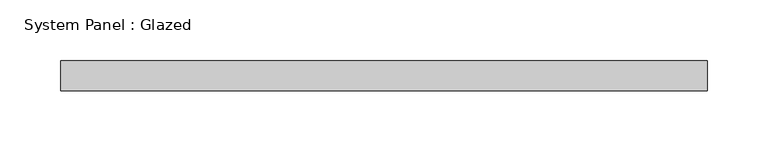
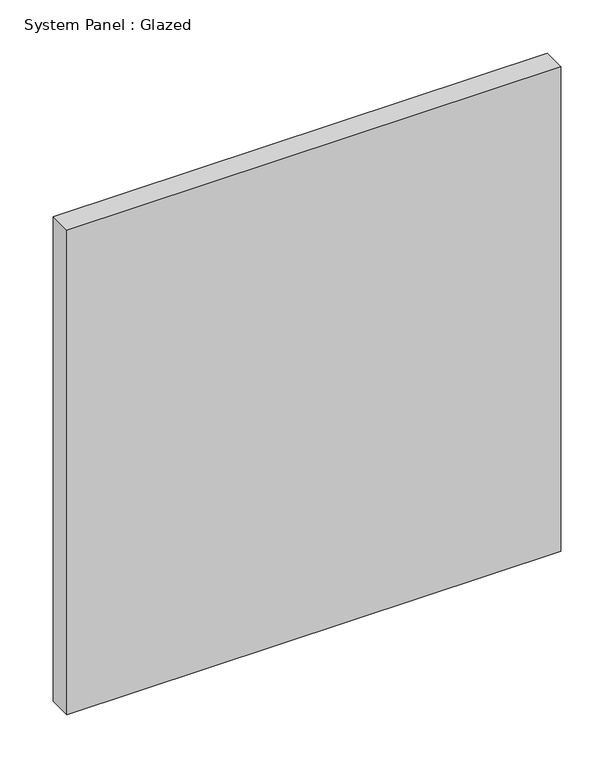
"""IFC4 building model written with IfcOpenShell, lengths in millimetres: plate geometry, System Panel : Glazed."""

from ifc_helpers import new_model, si_unit, origin, origin_with_axes, place, context, project, spatial, polyline, outline, extrude, source, transform, mapped, element, save


def system_panel_glazed_48e7aa56(model_context):
    return source(origin(), model_context, "Body", "SweptSolid", [
        extrude(outline(polyline([(266.7200031, -12.5), (-266.7200031, -12.5), (-266.7200031, 12.5), (266.7200031, 12.5), (266.7200031, -12.5)])), origin_with_axes(), (0.0, 0.0, 1.0), 553.2555545),
    ])


if __name__ == "__main__":
    model = new_model("IFC4")
    model_context = context("Model", 3, world=origin())
    ifc_project = project(units=[si_unit("LENGTHUNIT", "METRE", prefix="MILLI")], contexts=[model_context])
    site = spatial("IfcSite", under=ifc_project)
    building = spatial("IfcBuilding", under=site)
    placement = place(None, origin())
    system_panel_glazed_shape = system_panel_glazed_48e7aa56(model_context)
    element("IfcPlate", 1, ObjectType="System Panel : Glazed", at=placement, inside=building, context=model_context, shape_type="MappedRepresentation", body=[
        mapped(system_panel_glazed_shape, transform((0.0, 0.0, 0.0), x_axis=(1.0, 0.0, 0.0), y_axis=(0.0, 1.0, 0.0), z_axis=(0.0, 0.0, 1.0))),
    ])
    save(model, "model.ifc")
